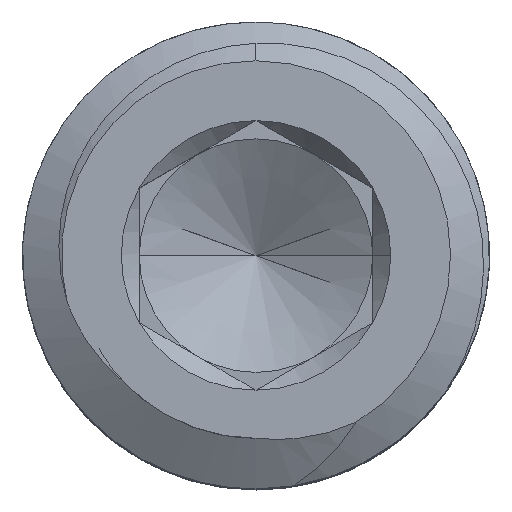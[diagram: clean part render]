
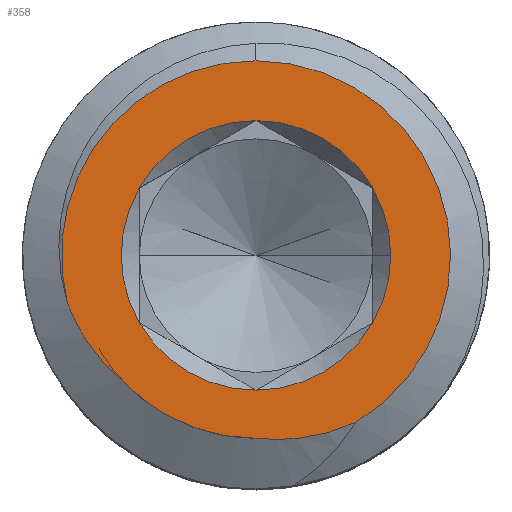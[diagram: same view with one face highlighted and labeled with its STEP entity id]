
A CAD part, top view. The second image highlights one B-rep face of the part: STEP entity #358.
In plain terms, the highlighted planar face has unit normal (0, 0, 1).
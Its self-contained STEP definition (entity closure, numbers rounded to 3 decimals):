
#7 = CARTESIAN_POINT ( 'NONE',  ( 0., 0., 5. ) ) ;
#61 = AXIS2_PLACEMENT_3D ( 'NONE', #2564, #1347, #141 ) ;
#141 = DIRECTION ( 'NONE',  ( 1., 0., 0. ) ) ;
#153 = CARTESIAN_POINT ( 'NONE',  ( -1.835, -1.524, 5. ) ) ;
#195 = VERTEX_POINT ( 'NONE', #2612 ) ;
#216 = ORIENTED_EDGE ( 'NONE', *, *, #3162, .F. ) ;
#238 = CARTESIAN_POINT ( 'NONE',  ( 1.083, -2.237, 5. ) ) ;
#302 = CARTESIAN_POINT ( 'NONE',  ( -2.425, -0.61, 5. ) ) ;
#358 = ADVANCED_FACE ( 'NONE', ( #942, #1953 ), #2406, .F. ) ;
#408 = CARTESIAN_POINT ( 'NONE',  ( 0., 0., 5. ) ) ;
#422 = EDGE_CURVE ( 'NONE', #1151, #1135, #1038, .T. ) ;
#448 = DIRECTION ( 'NONE',  ( 0., 0., -1. ) ) ;
#461 = CARTESIAN_POINT ( 'NONE',  ( -0.155, -2.35, 5. ) ) ;
#508 = CARTESIAN_POINT ( 'NONE',  ( 1.283, -2.145, 5. ) ) ;
#527 = ORIENTED_EDGE ( 'NONE', *, *, #648, .T. ) ;
#558 = VERTEX_POINT ( 'NONE', #508 ) ;
#565 = CARTESIAN_POINT ( 'NONE',  ( -2.425, -0.61, 5. ) ) ;
#642 = AXIS2_PLACEMENT_3D ( 'NONE', #7, #764, #1498 ) ;
#648 = EDGE_CURVE ( 'NONE', #1509, #2007, #3015, .T. ) ;
#702 = CARTESIAN_POINT ( 'NONE',  ( 0., 0., 5. ) ) ;
#714 = DIRECTION ( 'NONE',  ( 0., 0., 1. ) ) ;
#719 = CARTESIAN_POINT ( 'NONE',  ( -1.552, -1.772, 5. ) ) ;
#720 = ORIENTED_EDGE ( 'NONE', *, *, #2622, .F. ) ;
#764 = DIRECTION ( 'NONE',  ( 0., 0., 1. ) ) ;
#774 = EDGE_CURVE ( 'NONE', #1892, #2029, #1563, .T. ) ;
#787 = AXIS2_PLACEMENT_3D ( 'NONE', #2150, #2366, #3090 ) ;
#841 = CARTESIAN_POINT ( 'NONE',  ( 0., -1.732, 5. ) ) ;
#843 = AXIS2_PLACEMENT_3D ( 'NONE', #2608, #2852, #1642 ) ;
#873 = VERTEX_POINT ( 'NONE', #1257 ) ;
#906 = CARTESIAN_POINT ( 'NONE',  ( 0., 0., 5. ) ) ;
#912 = DIRECTION ( 'NONE',  ( 0., 1., 0. ) ) ;
#942 = FACE_BOUND ( 'NONE', #1291, .T. ) ;
#962 = CARTESIAN_POINT ( 'NONE',  ( 1.283, -2.145, 5. ) ) ;
#973 = CIRCLE ( 'NONE', #1079, 1.732 ) ;
#1005 = ORIENTED_EDGE ( 'NONE', *, *, #2237, .T. ) ;
#1027 = VERTEX_POINT ( 'NONE', #2466 ) ;
#1038 = B_SPLINE_CURVE_WITH_KNOTS ( 'NONE', 3,
 ( #1163, #461, #2144, #1711, #3141, #2632, #3098, #1938, #719, #1448 ),
 .UNSPECIFIED., .F., .F.,
 ( 4, 2, 2, 2, 4 ),
 ( 0., 0., 0.001, 0.001, 0.002 ),
 .UNSPECIFIED. ) ;
#1039 = AXIS2_PLACEMENT_3D ( 'NONE', #906, #2367, #2428 ) ;
#1060 = CARTESIAN_POINT ( 'NONE',  ( -2.243, -1.01, 5. ) ) ;
#1079 = AXIS2_PLACEMENT_3D ( 'NONE', #408, #2351, #1140 ) ;
#1089 = CIRCLE ( 'NONE', #787, 1.732 ) ;
#1135 = VERTEX_POINT ( 'NONE', #1755 ) ;
#1140 = DIRECTION ( 'NONE',  ( 1., 0., 0. ) ) ;
#1142 = DIRECTION ( 'NONE',  ( 0., 0., 1. ) ) ;
#1151 = VERTEX_POINT ( 'NONE', #2012 ) ;
#1157 = DIRECTION ( 'NONE',  ( 1., 0., 0. ) ) ;
#1163 = CARTESIAN_POINT ( 'NONE',  ( 0., -2.35, 5. ) ) ;
#1236 = CIRCLE ( 'NONE', #1039, 2.5 ) ;
#1248 = DIRECTION ( 'NONE',  ( 0., 0., 1. ) ) ;
#1257 = CARTESIAN_POINT ( 'NONE',  ( -1.5, -0.866, 5. ) ) ;
#1260 = ORIENTED_EDGE ( 'NONE', *, *, #1534, .F. ) ;
#1291 = EDGE_LOOP ( 'NONE', ( #216, #1260, #3139, #1379, #2947, #2731, #1743 ) ) ;
#1344 = CARTESIAN_POINT ( 'NONE',  ( -1.986, -1.365, 5. ) ) ;
#1347 = DIRECTION ( 'NONE',  ( 0., 0., 1. ) ) ;
#1379 = ORIENTED_EDGE ( 'NONE', *, *, #2441, .F. ) ;
#1384 = EDGE_CURVE ( 'NONE', #873, #1892, #2817, .T. ) ;
#1388 = AXIS2_PLACEMENT_3D ( 'NONE', #3122, #714, #1676 ) ;
#1389 = CIRCLE ( 'NONE', #843, 1.732 ) ;
#1415 = VERTEX_POINT ( 'NONE', #1943 ) ;
#1434 = B_SPLINE_CURVE_WITH_KNOTS ( 'NONE', 3,
 ( #2052, #153, #1344, #1060, #2036, #565 ),
 .UNSPECIFIED., .F., .F.,
 ( 4, 2, 4 ),
 ( 0., 0.001, 0.001 ),
 .UNSPECIFIED. ) ;
#1440 = CIRCLE ( 'NONE', #1702, 1.732 ) ;
#1448 = CARTESIAN_POINT ( 'NONE',  ( -1.662, -1.662, 5. ) ) ;
#1498 = DIRECTION ( 'NONE',  ( 1., 0., 0. ) ) ;
#1509 = VERTEX_POINT ( 'NONE', #2137 ) ;
#1519 = CARTESIAN_POINT ( 'NONE',  ( 1.5, -0.866, 5. ) ) ;
#1534 = EDGE_CURVE ( 'NONE', #195, #1551, #973, .T. ) ;
#1539 = AXIS2_PLACEMENT_3D ( 'NONE', #702, #448, #912 ) ;
#1551 = VERTEX_POINT ( 'NONE', #3132 ) ;
#1563 = CIRCLE ( 'NONE', #642, 1.732 ) ;
#1640 = AXIS2_PLACEMENT_3D ( 'NONE', #2764, #1248, #1766 ) ;
#1642 = DIRECTION ( 'NONE',  ( 1., 0., 0. ) ) ;
#1676 = DIRECTION ( 'NONE',  ( 1., 0., 0. ) ) ;
#1701 = CARTESIAN_POINT ( 'NONE',  ( 0., -2.35, 5. ) ) ;
#1702 = AXIS2_PLACEMENT_3D ( 'NONE', #3106, #1142, #1157 ) ;
#1711 = CARTESIAN_POINT ( 'NONE',  ( -0.611, -2.275, 5. ) ) ;
#1743 = ORIENTED_EDGE ( 'NONE', *, *, #2314, .F. ) ;
#1744 = EDGE_LOOP ( 'NONE', ( #720, #1005, #527, #1878, #2227 ) ) ;
#1755 = CARTESIAN_POINT ( 'NONE',  ( -1.662, -1.662, 5. ) ) ;
#1766 = DIRECTION ( 'NONE',  ( 0., -1., 0. ) ) ;
#1830 = EDGE_CURVE ( 'NONE', #1135, #2007, #1434, .T. ) ;
#1878 = ORIENTED_EDGE ( 'NONE', *, *, #1830, .F. ) ;
#1892 = VERTEX_POINT ( 'NONE', #841 ) ;
#1938 = CARTESIAN_POINT ( 'NONE',  ( -1.434, -1.869, 5. ) ) ;
#1943 = CARTESIAN_POINT ( 'NONE',  ( -1.5, 0.866, 5. ) ) ;
#1953 = FACE_OUTER_BOUND ( 'NONE', #1744, .T. ) ;
#2007 = VERTEX_POINT ( 'NONE', #302 ) ;
#2011 = CARTESIAN_POINT ( 'NONE',  ( 0.22, -2.375, 5. ) ) ;
#2012 = CARTESIAN_POINT ( 'NONE',  ( 0., -2.35, 5. ) ) ;
#2029 = VERTEX_POINT ( 'NONE', #1519 ) ;
#2036 = CARTESIAN_POINT ( 'NONE',  ( -2.348, -0.814, 5. ) ) ;
#2052 = CARTESIAN_POINT ( 'NONE',  ( -1.662, -1.662, 5. ) ) ;
#2137 = CARTESIAN_POINT ( 'NONE',  ( 0., 2.5, 5. ) ) ;
#2144 = CARTESIAN_POINT ( 'NONE',  ( -0.31, -2.335, 5. ) ) ;
#2150 = CARTESIAN_POINT ( 'NONE',  ( 0., 0., 5. ) ) ;
#2227 = ORIENTED_EDGE ( 'NONE', *, *, #422, .F. ) ;
#2231 = CARTESIAN_POINT ( 'NONE',  ( 0.874, -2.3, 5. ) ) ;
#2237 = EDGE_CURVE ( 'NONE', #558, #1509, #1236, .T. ) ;
#2314 = EDGE_CURVE ( 'NONE', #1415, #873, #1440, .T. ) ;
#2351 = DIRECTION ( 'NONE',  ( 0., 0., 1. ) ) ;
#2366 = DIRECTION ( 'NONE',  ( 0., 0., 1. ) ) ;
#2367 = DIRECTION ( 'NONE',  ( 0., 0., 1. ) ) ;
#2397 = B_SPLINE_CURVE_WITH_KNOTS ( 'NONE', 3,
 ( #962, #238, #2231, #2673, #2011, #1701 ),
 .UNSPECIFIED., .F., .F.,
 ( 4, 2, 4 ),
 ( 0.002, 0.002, 0.003 ),
 .UNSPECIFIED. ) ;
#2406 = PLANE ( 'NONE',  #1539 ) ;
#2428 = DIRECTION ( 'NONE',  ( 0., -1., 0. ) ) ;
#2441 = EDGE_CURVE ( 'NONE', #2029, #1027, #3030, .T. ) ;
#2466 = CARTESIAN_POINT ( 'NONE',  ( 1.732, 0., 5. ) ) ;
#2564 = CARTESIAN_POINT ( 'NONE',  ( 0., 0., 5. ) ) ;
#2571 = EDGE_CURVE ( 'NONE', #1027, #195, #1089, .T. ) ;
#2608 = CARTESIAN_POINT ( 'NONE',  ( 0., 0., 5. ) ) ;
#2612 = CARTESIAN_POINT ( 'NONE',  ( 1.5, 0.866, 5. ) ) ;
#2622 = EDGE_CURVE ( 'NONE', #558, #1151, #2397, .T. ) ;
#2632 = CARTESIAN_POINT ( 'NONE',  ( -1.042, -2.112, 5. ) ) ;
#2673 = CARTESIAN_POINT ( 'NONE',  ( 0.442, -2.369, 5. ) ) ;
#2731 = ORIENTED_EDGE ( 'NONE', *, *, #1384, .F. ) ;
#2764 = CARTESIAN_POINT ( 'NONE',  ( 0., 0., 5. ) ) ;
#2817 = CIRCLE ( 'NONE', #61, 1.732 ) ;
#2852 = DIRECTION ( 'NONE',  ( 0., 0., 1. ) ) ;
#2947 = ORIENTED_EDGE ( 'NONE', *, *, #774, .F. ) ;
#3015 = CIRCLE ( 'NONE', #1640, 2.5 ) ;
#3030 = CIRCLE ( 'NONE', #1388, 1.732 ) ;
#3090 = DIRECTION ( 'NONE',  ( 1., 0., 0. ) ) ;
#3098 = CARTESIAN_POINT ( 'NONE',  ( -1.179, -2.039, 5. ) ) ;
#3106 = CARTESIAN_POINT ( 'NONE',  ( 0., 0., 5. ) ) ;
#3122 = CARTESIAN_POINT ( 'NONE',  ( 0., 0., 5. ) ) ;
#3132 = CARTESIAN_POINT ( 'NONE',  ( 0., 1.732, 5. ) ) ;
#3139 = ORIENTED_EDGE ( 'NONE', *, *, #2571, .F. ) ;
#3141 = CARTESIAN_POINT ( 'NONE',  ( -0.758, -2.23, 5. ) ) ;
#3162 = EDGE_CURVE ( 'NONE', #1551, #1415, #1389, .T. ) ;
